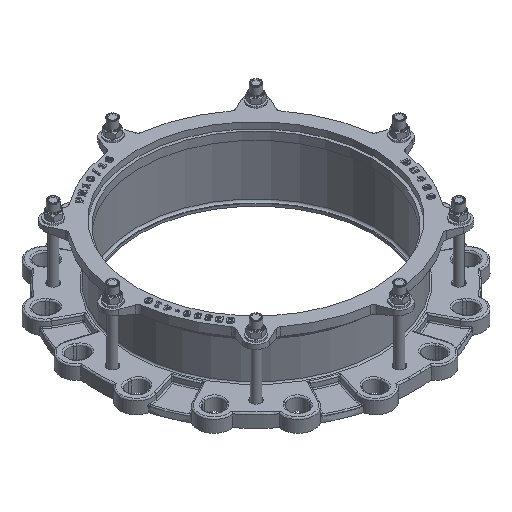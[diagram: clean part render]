
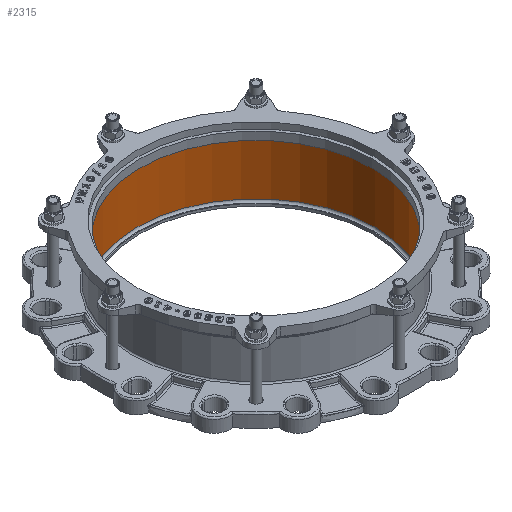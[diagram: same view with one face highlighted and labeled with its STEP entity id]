
A CAD part, isometric view. The second image highlights one B-rep face of the part: STEP entity #2315.
In plain terms, the highlighted cylindrical face has radius 205 mm (diameter 410 mm), a full revolution.
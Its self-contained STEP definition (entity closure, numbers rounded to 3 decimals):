
#2315=ADVANCED_FACE('',(#16213,#16215),#16217,.F.);
#16213=FACE_OUTER_BOUND('',#16214,.T.);
#16214=EDGE_LOOP('',(#23520));
#16215=FACE_OUTER_BOUND('',#16216,.T.);
#16216=EDGE_LOOP('',(#23521));
#16217=CYLINDRICAL_SURFACE('',#16218,205.);
#16218=AXIS2_PLACEMENT_3D('',#16219,#16220,#16221);
#16219=CARTESIAN_POINT('',(0.,0.,4.));
#16220=DIRECTION('',(0.,0.,1.));
#16221=DIRECTION('',(-1.,0.,0.));
#23520=ORIENTED_EDGE('',*,*,#29191,.F.);
#23521=ORIENTED_EDGE('',*,*,#29192,.T.);
#29191=EDGE_CURVE('',#33222,#33222,#33223,.T.);
#29192=EDGE_CURVE('',#33224,#33224,#33225,.F.);
#33222=VERTEX_POINT('',#47718);
#33223=CIRCLE('',#47719,205.);
#33224=VERTEX_POINT('',#47723);
#33225=CIRCLE('',#47724,205.);
#47718=CARTESIAN_POINT('',(0.,205.,95.75));
#47719=AXIS2_PLACEMENT_3D('',#47720,#47721,#47722);
#47720=CARTESIAN_POINT('',(0.,0.,95.75));
#47721=DIRECTION('',(0.,0.,-1.));
#47722=DIRECTION('',(0.,1.,0.));
#47723=CARTESIAN_POINT('',(0.,205.,7.5));
#47724=AXIS2_PLACEMENT_3D('',#47725,#47726,#47727);
#47725=CARTESIAN_POINT('',(0.,0.,7.5));
#47726=DIRECTION('',(0.,0.,1.));
#47727=DIRECTION('',(0.,1.,0.));
